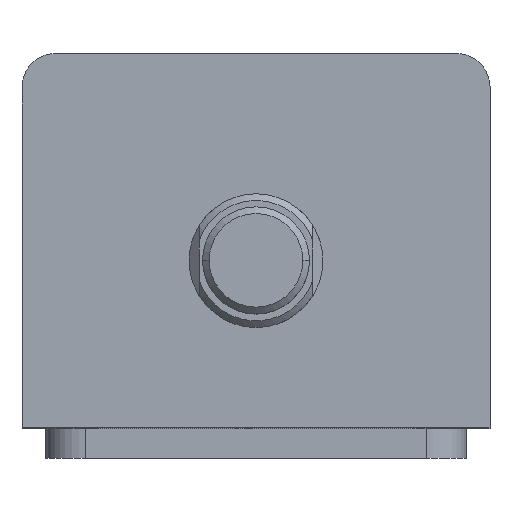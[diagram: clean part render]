
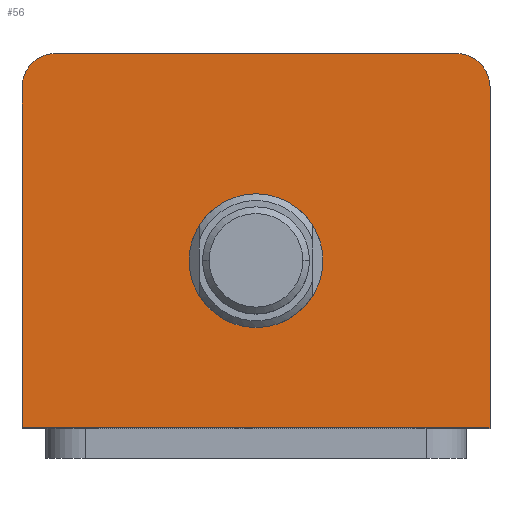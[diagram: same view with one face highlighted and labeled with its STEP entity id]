
A CAD part, top view. The second image highlights one B-rep face of the part: STEP entity #56.
In plain terms, the highlighted planar face has unit normal (0, 0, 1).
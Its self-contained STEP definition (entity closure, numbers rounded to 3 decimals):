
#11 = VERTEX_POINT ( 'NONE', #1480 ) ;
#28 = VERTEX_POINT ( 'NONE', #1463 ) ;
#33 = VERTEX_POINT ( 'NONE', #1458 ) ;
#56 = ADVANCED_FACE ( 'NONE', ( #3168, #3163 ), #1321, .T. ) ;
#158 = VERTEX_POINT ( 'NONE', #1222 ) ;
#165 = VERTEX_POINT ( 'NONE', #1214 ) ;
#166 = VERTEX_POINT ( 'NONE', #1213 ) ;
#170 = VERTEX_POINT ( 'NONE', #1218 ) ;
#183 = EDGE_CURVE ( 'NONE', #170, #409, #2382, .T. ) ;
#194 = EDGE_CURVE ( 'NONE', #166, #158, #2397, .T. ) ;
#204 = EDGE_CURVE ( 'NONE', #158, #165, #2413, .T. ) ;
#230 = EDGE_CURVE ( 'NONE', #165, #33, #2444, .T. ) ;
#251 = EDGE_CURVE ( 'NONE', #409, #166, #2462, .T. ) ;
#281 = AXIS2_PLACEMENT_3D ( 'NONE', #1345, #1310, #1309 ) ;
#307 = AXIS2_PLACEMENT_3D ( 'NONE', #1932, #1931, #1930 ) ;
#328 = EDGE_CURVE ( 'NONE', #28, #11, #2512, .T. ) ;
#356 = AXIS2_PLACEMENT_3D ( 'NONE', #1894, #1892, #1890 ) ;
#361 = EDGE_CURVE ( 'NONE', #33, #170, #2543, .T. ) ;
#409 = VERTEX_POINT ( 'NONE', #1649 ) ;
#1213 = CARTESIAN_POINT ( 'NONE',  ( 35., 23., 89. ) ) ;
#1214 = CARTESIAN_POINT ( 'NONE',  ( -30., 28., 89. ) ) ;
#1218 = CARTESIAN_POINT ( 'NONE',  ( -35., -28., 89. ) ) ;
#1222 = CARTESIAN_POINT ( 'NONE',  ( 30., 28., 89. ) ) ;
#1309 = DIRECTION ( 'NONE',  ( 1., 0., 0. ) ) ;
#1310 = DIRECTION ( 'NONE',  ( 0., 0., 1. ) ) ;
#1321 = PLANE ( 'NONE',  #281 ) ;
#1345 = CARTESIAN_POINT ( 'NONE',  ( 0., 0., 89. ) ) ;
#1458 = CARTESIAN_POINT ( 'NONE',  ( -35., 23., 89. ) ) ;
#1463 = CARTESIAN_POINT ( 'NONE',  ( -10., -3., 89. ) ) ;
#1480 = CARTESIAN_POINT ( 'NONE',  ( 10., -3., 89. ) ) ;
#1497 = EDGE_CURVE ( 'NONE', #11, #28, #2580, .T. ) ;
#1616 = DIRECTION ( 'NONE',  ( 1., 0., 0. ) ) ;
#1617 = DIRECTION ( 'NONE',  ( 0., 0., 1. ) ) ;
#1618 = CARTESIAN_POINT ( 'NONE',  ( 0., -3., 89. ) ) ;
#1649 = CARTESIAN_POINT ( 'NONE',  ( 35., -28., 89. ) ) ;
#1724 = DIRECTION ( 'NONE',  ( 0., -1., 0. ) ) ;
#1725 = CARTESIAN_POINT ( 'NONE',  ( -35., 28., 89. ) ) ;
#1776 = DIRECTION ( 'NONE',  ( 1., 0., 0. ) ) ;
#1777 = DIRECTION ( 'NONE',  ( 0., 0., 1. ) ) ;
#1779 = CARTESIAN_POINT ( 'NONE',  ( 0., -3., 89. ) ) ;
#1810 = DIRECTION ( 'NONE',  ( -1., 0., 0. ) ) ;
#1815 = CARTESIAN_POINT ( 'NONE',  ( -35., 28., 89. ) ) ;
#1887 = CARTESIAN_POINT ( 'NONE',  ( 35., 28., 89. ) ) ;
#1890 = DIRECTION ( 'NONE',  ( 1., 0., 0. ) ) ;
#1892 = DIRECTION ( 'NONE',  ( 0., 0., 1. ) ) ;
#1894 = CARTESIAN_POINT ( 'NONE',  ( 30., 23., 89. ) ) ;
#1908 = DIRECTION ( 'NONE',  ( 0., 1., 0. ) ) ;
#1930 = DIRECTION ( 'NONE',  ( 1., 0., 0. ) ) ;
#1931 = DIRECTION ( 'NONE',  ( 0., 0., 1. ) ) ;
#1932 = CARTESIAN_POINT ( 'NONE',  ( -30., 23., 89. ) ) ;
#1952 = DIRECTION ( 'NONE',  ( 1., 0., 0. ) ) ;
#1953 = CARTESIAN_POINT ( 'NONE',  ( -35., -28., 89. ) ) ;
#2242 = AXIS2_PLACEMENT_3D ( 'NONE', #1618, #1617, #1616 ) ;
#2261 = AXIS2_PLACEMENT_3D ( 'NONE', #1779, #1777, #1776 ) ;
#2382 = LINE ( 'NONE', #1953, #2385 ) ;
#2385 = VECTOR ( 'NONE', #1952, 1000. ) ;
#2397 = CIRCLE ( 'NONE', #356, 5. ) ;
#2413 = LINE ( 'NONE', #1815, #2416 ) ;
#2416 = VECTOR ( 'NONE', #1810, 1000. ) ;
#2444 = CIRCLE ( 'NONE', #307, 5. ) ;
#2462 = LINE ( 'NONE', #1887, #2465 ) ;
#2465 = VECTOR ( 'NONE', #1908, 1000. ) ;
#2512 = CIRCLE ( 'NONE', #2261, 10. ) ;
#2543 = LINE ( 'NONE', #1725, #2545 ) ;
#2545 = VECTOR ( 'NONE', #1724, 1000. ) ;
#2580 = CIRCLE ( 'NONE', #2242, 10. ) ;
#2649 = ORIENTED_EDGE ( 'NONE', *, *, #183, .T. ) ;
#2650 = ORIENTED_EDGE ( 'NONE', *, *, #361, .T. ) ;
#2651 = ORIENTED_EDGE ( 'NONE', *, *, #230, .T. ) ;
#2652 = ORIENTED_EDGE ( 'NONE', *, *, #204, .T. ) ;
#2653 = ORIENTED_EDGE ( 'NONE', *, *, #194, .T. ) ;
#2654 = ORIENTED_EDGE ( 'NONE', *, *, #251, .T. ) ;
#2655 = ORIENTED_EDGE ( 'NONE', *, *, #328, .F. ) ;
#2656 = ORIENTED_EDGE ( 'NONE', *, *, #1497, .F. ) ;
#3061 = EDGE_LOOP ( 'NONE', ( #2656, #2655 ) ) ;
#3070 = EDGE_LOOP ( 'NONE', ( #2654, #2653, #2652, #2651, #2650, #2649 ) ) ;
#3163 = FACE_OUTER_BOUND ( 'NONE', #3070, .T. ) ;
#3168 = FACE_BOUND ( 'NONE', #3061, .T. ) ;
